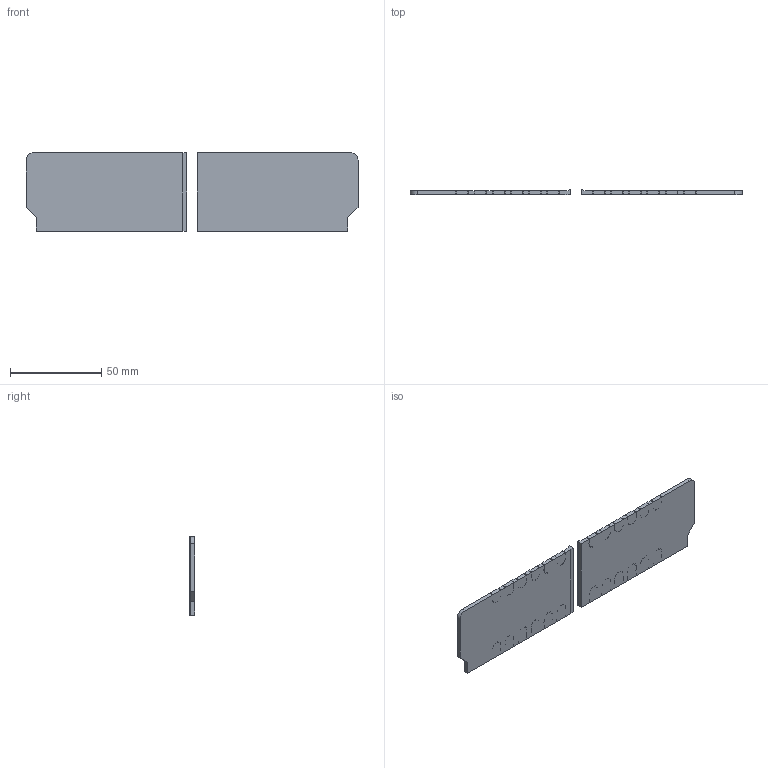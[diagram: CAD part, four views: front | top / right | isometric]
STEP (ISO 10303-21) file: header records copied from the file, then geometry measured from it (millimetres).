
FILE_DESCRIPTION(('HOOPS Exchange Step'),'2;1');
FILE_NAME('/private/var/mobile/Containers/Data/Application/FEB09317-4D42-4244-84D5-4744026CA7E9/tmp/export/temp_export','2021-11-26T22:09:58+01:00',('mobile'),('Shapr3D Limited'),'HOOPS Exchange 2021.1','Shapr3D','Authorized');
FILE_SCHEMA( ('AP203_CONFIGURATION_CONTROLLED_3D_DESIGN_OF_MECHANICAL_PARTS_AND_ASSEMBLIES_MIM_LF') );
Length unit declared in the file: millimetre
Products named in the file (1): /private/var/mobile/Containers/Data/Application/FEB09317-4D42-4244-84D5-4744026CA7E9/tmp/EDD80246-F0ED-4C93-9364-481ABD974D72.tmp
Bounding box: 182.4 x 3.2 x 43 mm (x, y, z)
Volume: 15885.8 mm3; surface area: 18077.4 mm2
Topology: 2 solids, 2 shells, 338 faces, 956 edges, 638 vertices
Faces by surface type: plane 240, cylinder 76, bspline 12, extrusion 10
Entity records: 12266 total; most frequent: CARTESIAN_POINT 3356, ORIENTED_EDGE 1912, DIRECTION 1767, EDGE_CURVE 956, VECTOR 769, LINE 759, VERTEX_POINT 638, AXIS2_PLACEMENT_3D 499
